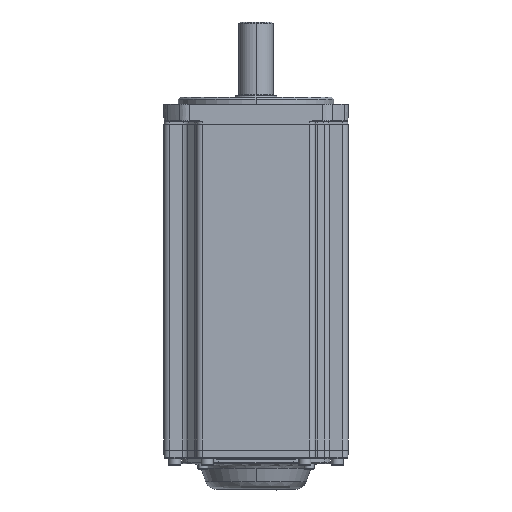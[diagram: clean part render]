
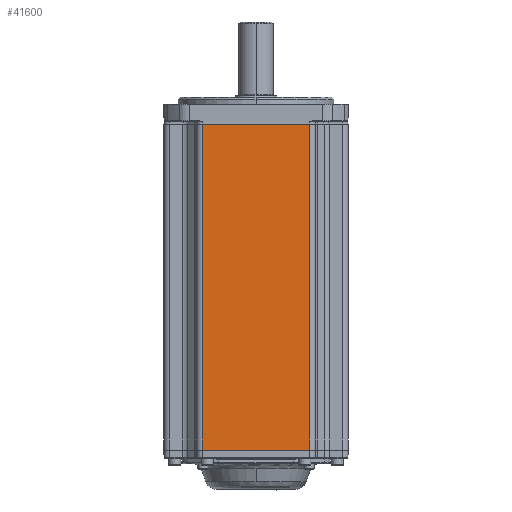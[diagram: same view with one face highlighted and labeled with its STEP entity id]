
A CAD part, front view. The second image highlights one B-rep face of the part: STEP entity #41600.
In plain terms, the highlighted planar face has unit normal (0, -1, 0).
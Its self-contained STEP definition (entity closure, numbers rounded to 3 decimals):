
#856 = VERTEX_POINT ( 'NONE', #53440 ) ;
#1945 = ORIENTED_EDGE ( 'NONE', *, *, #39746, .F. ) ;
#6943 = ORIENTED_EDGE ( 'NONE', *, *, #16637, .T. ) ;
#7385 = ORIENTED_EDGE ( 'NONE', *, *, #41210, .T. ) ;
#7920 = DIRECTION ( 'NONE',  ( 0., 1., 0. ) ) ;
#8711 = EDGE_CURVE ( 'NONE', #57865, #38773, #33319, .T. ) ;
#9209 = DIRECTION ( 'NONE',  ( 1., 0., 0. ) ) ;
#9267 = VECTOR ( 'NONE', #15000, 1000. ) ;
#10021 = CARTESIAN_POINT ( 'NONE',  ( 38., -65., 817.8 ) ) ;
#10748 = VECTOR ( 'NONE', #9209, 1000. ) ;
#11577 = AXIS2_PLACEMENT_3D ( 'NONE', #22206, #7920, #17104 ) ;
#12162 = VECTOR ( 'NONE', #29955, 1000. ) ;
#13282 = FACE_OUTER_BOUND ( 'NONE', #33863, .T. ) ;
#14338 = CARTESIAN_POINT ( 'NONE',  ( -38., -65., 47.8 ) ) ;
#15000 = DIRECTION ( 'NONE',  ( 0., 0., 1. ) ) ;
#15969 = LINE ( 'NONE', #10021, #9267 ) ;
#16637 = EDGE_CURVE ( 'NONE', #38773, #856, #15969, .T. ) ;
#17104 = DIRECTION ( 'NONE',  ( 0., 0., 1. ) ) ;
#20350 = VERTEX_POINT ( 'NONE', #14338 ) ;
#22001 = PLANE ( 'NONE',  #11577 ) ;
#22206 = CARTESIAN_POINT ( 'NONE',  ( -42., -65., 817.8 ) ) ;
#24464 = VECTOR ( 'NONE', #51211, 1000. ) ;
#25645 = ORIENTED_EDGE ( 'NONE', *, *, #8711, .T. ) ;
#25972 = LINE ( 'NONE', #56272, #24464 ) ;
#29751 = CARTESIAN_POINT ( 'NONE',  ( -38., -65., 817.8 ) ) ;
#29955 = DIRECTION ( 'NONE',  ( 0., 0., -1. ) ) ;
#32957 = CARTESIAN_POINT ( 'NONE',  ( -42., -65., -182.2 ) ) ;
#33319 = LINE ( 'NONE', #32957, #10748 ) ;
#33863 = EDGE_LOOP ( 'NONE', ( #1945, #7385, #25645, #6943 ) ) ;
#37747 = CARTESIAN_POINT ( 'NONE',  ( -38., -65., -182.2 ) ) ;
#38773 = VERTEX_POINT ( 'NONE', #48779 ) ;
#39746 = EDGE_CURVE ( 'NONE', #20350, #856, #25972, .T. ) ;
#41210 = EDGE_CURVE ( 'NONE', #20350, #57865, #53730, .T. ) ;
#41600 = ADVANCED_FACE ( 'NONE', ( #13282 ), #22001, .F. ) ;
#48779 = CARTESIAN_POINT ( 'NONE',  ( 38., -65., -182.2 ) ) ;
#51211 = DIRECTION ( 'NONE',  ( 1., 0., 0. ) ) ;
#53440 = CARTESIAN_POINT ( 'NONE',  ( 38., -65., 47.8 ) ) ;
#53730 = LINE ( 'NONE', #29751, #12162 ) ;
#56272 = CARTESIAN_POINT ( 'NONE',  ( -42., -65., 47.8 ) ) ;
#57865 = VERTEX_POINT ( 'NONE', #37747 ) ;
